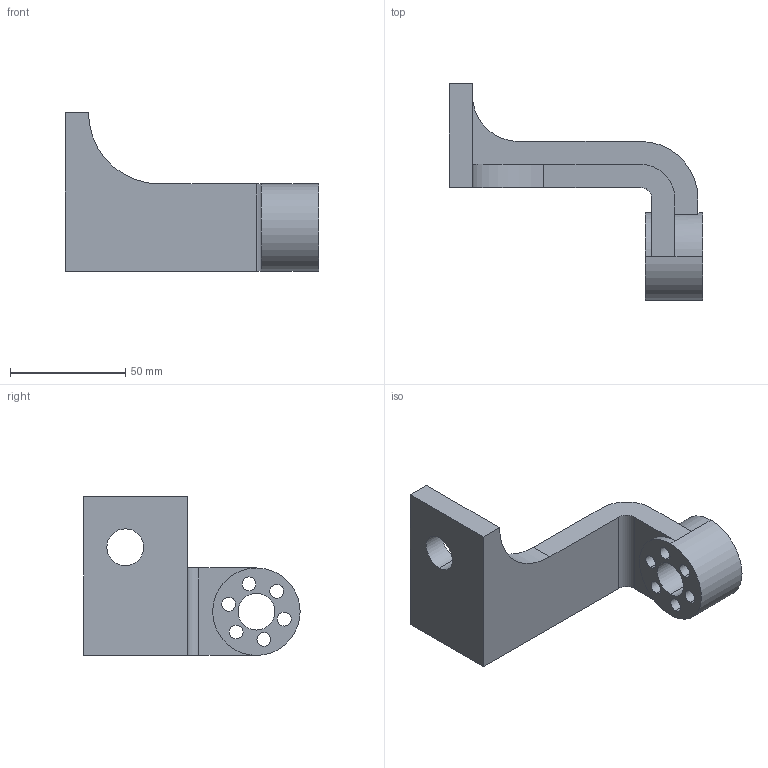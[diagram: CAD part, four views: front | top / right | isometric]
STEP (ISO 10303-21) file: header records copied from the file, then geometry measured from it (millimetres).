
FILE_DESCRIPTION (( 'STEP AP214' ), '1' );
FILE_NAME ('c08_tut01.STEP', '2016-02-10T06:21:44', ( '' ), ( '' ), 'SwSTEP 2.0', 'SolidWorks 2016', '' );
FILE_SCHEMA (( 'AUTOMOTIVE_DESIGN' ));
Length unit declared in the file: millimetre
Products named in the file (1): c08_tut01
Bounding box: 110 x 94 x 69 mm (x, y, z)
Volume: 99647.5 mm3; surface area: 28533.7 mm2
Topology: 1 solids, 1 shells, 43 faces, 118 edges, 77 vertices
Faces by surface type: cylinder 25, plane 18
Entity records: 1450 total; most frequent: DIRECTION 258, CARTESIAN_POINT 239, ORIENTED_EDGE 236, EDGE_CURVE 118, AXIS2_PLACEMENT_3D 96, VERTEX_POINT 77, VECTOR 66, LINE 66
